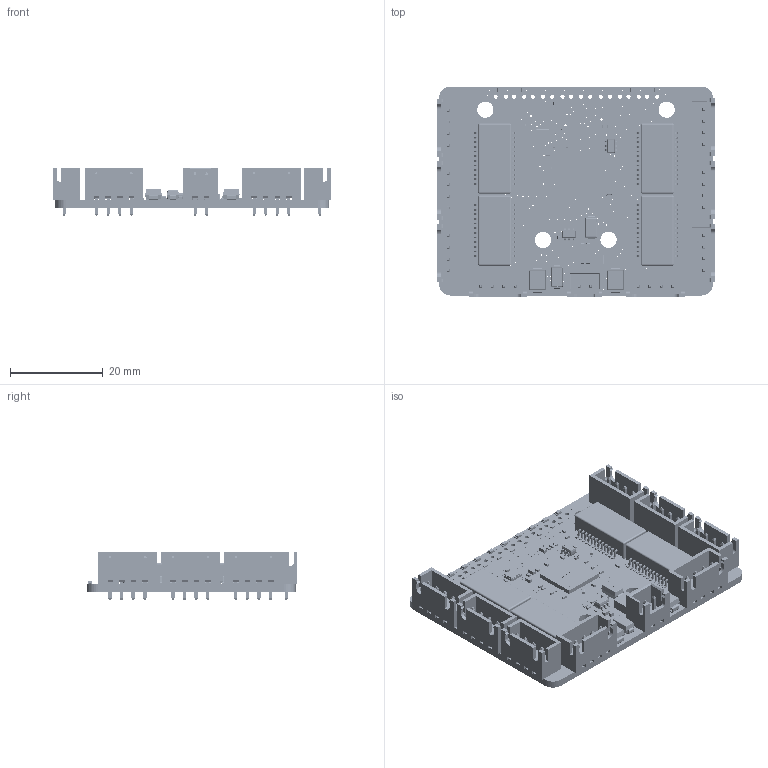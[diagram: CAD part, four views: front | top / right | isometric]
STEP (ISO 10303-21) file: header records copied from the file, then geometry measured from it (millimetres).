
FILE_DESCRIPTION(('Designed by EasyEDA Pro'),'2;1');
FILE_NAME('Open CASCADE Shape Model','2026-07-21T11:48:50',('Author'),( 'Open CASCADE'),'Open CASCADE STEP processor 7.8','Open CASCADE 7.8' ,'Unknown');
FILE_SCHEMA(('AUTOMOTIVE_DESIGN { 1 0 10303 214 1 1 1 1 }'));
Length unit declared in the file: millimetre
Products named in the file (650): EasyEDA PCB Model~pOtV; Board~pOtV; TopCopper~pOtV; BottomCopper~pOtV; TopSilkscreen~pOtV; BottomSilkscreen~pOtV; TopFpcStiffener~pOtV; BottomFpcStiffener~pOtV; C33~1206~C1206_L3.2-W1.6-H1.3_1~pOtV; 1206~C1206_L3.2-W1.6-H1.3_1~pOtV; C18~1206~C1206_L3.2-W1.6-H1.3_1~pOtV; C0402~C0402~DkvT; C10~C0402~C0402~gnfp; C15~C0402~C0402~MuzA; C2~C0402~C0402~v00P; C6~C0402~C0402~wXwl; C7~C0402~C0402~8bVF; C8~C0402~C0402~J1mO; C36~C0402~C0402~zH0O; C40~C0402~C0402~ILPV; C42~C0402~C0402~gvKD; C43~C0402~C0402~yBi2; C45~C0402~C0402~Hcfh; C46~C0402~C0402~uCCF; C47~C0402~C0402~4CXy; C50~C0402~C0402~szU7; C51~C0402~C0402~Nayl; C52~C0402~C0402~9tnt; C53~C0402~C0402~g8Eg; C54~C0402~C0402~SCI1; C55~C0402~C0402~c37X; C60~C0402~C0402~N5vO; C64~C0402~C0402~RSRZ; C14~C0402~C0402~Xxlv; C12~C0402~C0402~5t30; C13~C0402~C0402~bMrt; C1~C0402~C0402~E2at; C9~C0402~C0402~PFFL; C30~C0402~C0402~u2IZ; R0402~R0402_L1.0-W0.5-H0.4~OE5s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
Assembly tree (1003 placements, depth 3):
  EasyEDA PCB Model~pOtV
    Board~pOtV
    TopCopper~pOtV
      TopCopper~pOtV
      TopCopper~pOtV
      TopCopper~pOtV
      TopCopper~pOtV
      TopCopper~pOtV
      TopCopper~pOtV
      TopCopper~pOtV
      TopCopper~pOtV
      TopCopper~pOtV
      TopCopper~pOtV
      TopCopper~pOtV
      TopCopper~pOtV
      TopCopper~pOtV
      TopCopper~pOtV
      TopCopper~pOtV
      TopCopper~pOtV
      TopCopper~pOtV
      TopCopper~pOtV
      TopCopper~pOtV
      TopCopper~pOtV
      TopCopper~pOtV
      TopCopper~pOtV
      TopCopper~pOtV
      TopCopper~pOtV
      TopCopper~pOtV
      TopCopper~pOtV
      TopCopper~pOtV
      TopCopper~pOtV
      TopCopper~pOtV
      TopCopper~pOtV
      TopCopper~pOtV
      TopCopper~pOtV
      TopCopper~pOtV
      TopCopper~pOtV
      TopCopper~pOtV
      TopCopper~pOtV
      TopCopper~pOtV
      TopCopper~pOtV
      TopCopper~pOtV
      TopCopper~pOtV
      TopCopper~pOtV
      TopCopper~pOtV
      TopCopper~pOtV
      TopCopper~pOtV
      TopCopper~pOtV
      TopCopper~pOtV
      TopCopper~pOtV
      TopCopper~pOtV
      TopCopper~pOtV
      TopCopper~pOtV
      TopCopper~pOtV
      TopCopper~pOtV
      TopCopper~pOtV
      TopCopper~pOtV
      TopCopper~pOtV
      TopCopper~pOtV
      TopCopper~pOtV
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Bounding box: 59.8 x 45.39 x 10.5 mm (x, y, z)
Volume: 8306.3 mm3; surface area: 17129.7 mm2
Topology: 638 solids, 1181 shells, 31298 faces, 120188 edges, 92190 vertices
Faces by surface type: plane 18967, bspline 8420, cylinder 3455, sphere 348, torus 108
Full cylindrical faces by diameter (mm): 0.189 x1, 0.248 x2
Entity records: 588331 total; most frequent: CARTESIAN_POINT 141065, DIRECTION 68919, ORIENTED_EDGE 68640, EDGE_CURVE 53452, VERTEX_POINT 48302, LINE 42749, VECTOR 42749, AXIS2_PLACEMENT_3D 13085
